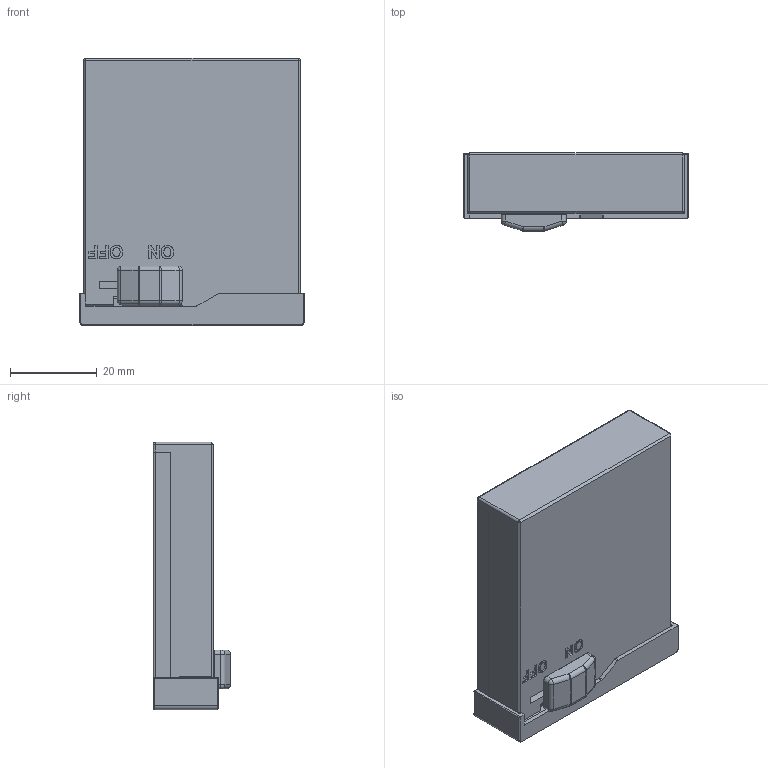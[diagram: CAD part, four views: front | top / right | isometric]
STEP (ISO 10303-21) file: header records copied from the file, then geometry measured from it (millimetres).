
FILE_DESCRIPTION((''),'2;1');
FILE_NAME('CELLBOXA_ASM','2024-10-08T10:47:01',('qinghui.yi'),(''),'CREO PARAMETRIC BY PTC INC, 2019164','CREO PARAMETRIC BY PTC INC, 2019164','');
FILE_SCHEMA(('CONFIG_CONTROL_DESIGN','SHAPE_APPEARANCE_LAYERS_GROUPS'));
Length unit declared in the file: millimetre
Products named in the file (10): CELLBOX; 000; 00; 20X90001; 10X9000; 0006; CELLBOXA_ASM
Assembly tree (12 placements, depth 2):
  CELLBOXA_ASM
    CELLBOX
    000
    00
    000
    20X90001  x3
    10X9000
    10X9000
    0006
    000  x2
Bounding box: 52 x 18 x 61.8 mm (x, y, z)
Volume: 19103.7 mm3; surface area: 27603.4 mm2
Topology: 12 solids, 12 shells, 1173 faces, 3116 edges, 2004 vertices
Faces by surface type: plane 690, cylinder 239, extrusion 121, bspline 53, cone 31, torus 27, sphere 12
Entity records: 49568 total; most frequent: CARTESIAN_POINT 9253, ORIENTED_EDGE 5314, DIRECTION 4538, PRESENTATION_STYLE_ASSIGNMENT 3778, STYLED_ITEM 3778, CURVE_STYLE 2774, EDGE_CURVE 2657, VECTOR 2044
